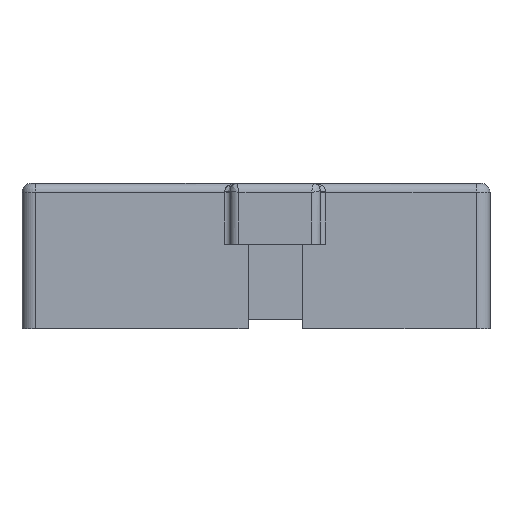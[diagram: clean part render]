
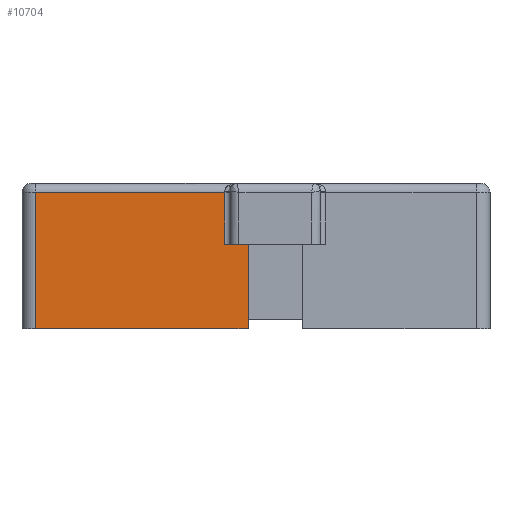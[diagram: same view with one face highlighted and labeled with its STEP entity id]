
A CAD part, left-side view. The second image highlights one B-rep face of the part: STEP entity #10704.
In plain terms, the highlighted planar face has unit normal (-1, 0, 0).
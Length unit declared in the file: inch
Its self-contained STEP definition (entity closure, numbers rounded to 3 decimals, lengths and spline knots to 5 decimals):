
#820 = DIRECTION ( 'NONE',  ( 0., 0., -1. ) ) ;
#1205 = EDGE_CURVE ( 'NONE', #4501, #9543, #11214, .T. ) ;
#1338 = ORIENTED_EDGE ( 'NONE', *, *, #4354, .T. ) ;
#1424 = VECTOR ( 'NONE', #4237, 39.37008 ) ;
#1604 = VERTEX_POINT ( 'NONE', #9444 ) ;
#1867 = VERTEX_POINT ( 'NONE', #3209 ) ;
#2037 = AXIS2_PLACEMENT_3D ( 'NONE', #5438, #12933, #3393 ) ;
#2722 = EDGE_CURVE ( 'NONE', #5899, #9097, #6956, .T. ) ;
#3209 = CARTESIAN_POINT ( 'NONE',  ( -1.59375, 0.055, 0.58 ) ) ;
#3265 = CARTESIAN_POINT ( 'NONE',  ( -1.59375, 0.21363, 0.9375 ) ) ;
#3393 = DIRECTION ( 'NONE',  ( 0., 0., -1. ) ) ;
#3478 = FACE_OUTER_BOUND ( 'NONE', #10653, .T. ) ;
#3765 = LINE ( 'NONE', #12132, #9841 ) ;
#3996 = EDGE_CURVE ( 'NONE', #1867, #9543, #10055, .T. ) ;
#4229 = ORIENTED_EDGE ( 'NONE', *, *, #3996, .F. ) ;
#4237 = DIRECTION ( 'NONE',  ( 0., 0., 1. ) ) ;
#4354 = EDGE_CURVE ( 'NONE', #9097, #1604, #7360, .T. ) ;
#4375 = CARTESIAN_POINT ( 'NONE',  ( -1.59375, 0.21363, 0.58 ) ) ;
#4501 = VERTEX_POINT ( 'NONE', #7859 ) ;
#4664 = VECTOR ( 'NONE', #13275, 39.37008 ) ;
#5147 = VECTOR ( 'NONE', #820, 39.37008 ) ;
#5239 = ORIENTED_EDGE ( 'NONE', *, *, #11276, .T. ) ;
#5438 = CARTESIAN_POINT ( 'NONE',  ( -1.59375, -1.6125, 1. ) ) ;
#5494 = CARTESIAN_POINT ( 'NONE',  ( -1.59375, 0.055, 0. ) ) ;
#5899 = VERTEX_POINT ( 'NONE', #4375 ) ;
#6688 = ORIENTED_EDGE ( 'NONE', *, *, #2722, .T. ) ;
#6956 = LINE ( 'NONE', #11808, #1424 ) ;
#7104 = CARTESIAN_POINT ( 'NONE',  ( -1.59375, -1.6125, 0. ) ) ;
#7184 = VECTOR ( 'NONE', #8015, 39.37008 ) ;
#7360 = LINE ( 'NONE', #12101, #4664 ) ;
#7859 = CARTESIAN_POINT ( 'NONE',  ( -1.59375, 1.51875, 0. ) ) ;
#8015 = DIRECTION ( 'NONE',  ( 0., 0., -1. ) ) ;
#9097 = VERTEX_POINT ( 'NONE', #3265 ) ;
#9444 = CARTESIAN_POINT ( 'NONE',  ( -1.59375, 1.51875, 0.9375 ) ) ;
#9543 = VERTEX_POINT ( 'NONE', #5494 ) ;
#9841 = VECTOR ( 'NONE', #13217, 39.37008 ) ;
#10023 = LINE ( 'NONE', #13636, #5147 ) ;
#10051 = VECTOR ( 'NONE', #13451, 39.37008 ) ;
#10055 = LINE ( 'NONE', #13336, #7184 ) ;
#10653 = EDGE_LOOP ( 'NONE', ( #12725, #6688, #1338, #5239, #12066, #4229 ) ) ;
#10704 = ADVANCED_FACE ( 'NONE', ( #3478 ), #11952, .F. ) ;
#11214 = LINE ( 'NONE', #7104, #10051 ) ;
#11276 = EDGE_CURVE ( 'NONE', #1604, #4501, #10023, .T. ) ;
#11630 = EDGE_CURVE ( 'NONE', #5899, #1867, #3765, .T. ) ;
#11808 = CARTESIAN_POINT ( 'NONE',  ( -1.59375, 0.21363, 1. ) ) ;
#11952 = PLANE ( 'NONE',  #2037 ) ;
#12066 = ORIENTED_EDGE ( 'NONE', *, *, #1205, .T. ) ;
#12101 = CARTESIAN_POINT ( 'NONE',  ( -1.59375, -1.6125, 0.9375 ) ) ;
#12132 = CARTESIAN_POINT ( 'NONE',  ( -1.59375, 0.7303, 0.58 ) ) ;
#12725 = ORIENTED_EDGE ( 'NONE', *, *, #11630, .F. ) ;
#12933 = DIRECTION ( 'NONE',  ( 1., 0., 0. ) ) ;
#13217 = DIRECTION ( 'NONE',  ( 0., -1., 0. ) ) ;
#13275 = DIRECTION ( 'NONE',  ( 0., 1., 0. ) ) ;
#13336 = CARTESIAN_POINT ( 'NONE',  ( -1.59375, 0.055, 0.83 ) ) ;
#13451 = DIRECTION ( 'NONE',  ( 0., -1., 0. ) ) ;
#13636 = CARTESIAN_POINT ( 'NONE',  ( -1.59375, 1.51875, 1. ) ) ;
